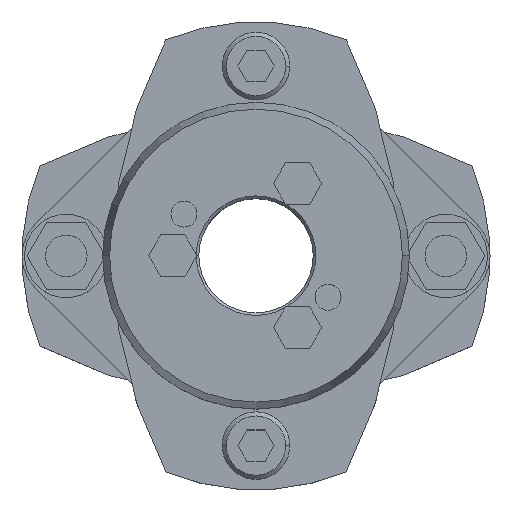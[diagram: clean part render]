
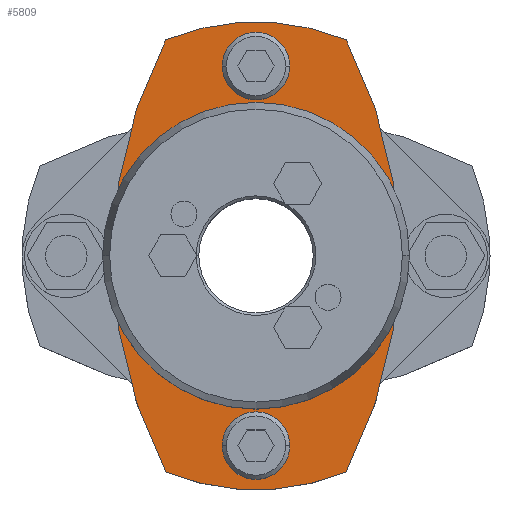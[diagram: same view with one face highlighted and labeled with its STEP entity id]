
A CAD part, top view. The second image highlights one B-rep face of the part: STEP entity #5809.
In plain terms, the highlighted planar face has unit normal (0, 0, 1).
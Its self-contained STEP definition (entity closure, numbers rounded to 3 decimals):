
#771=CARTESIAN_POINT('',(27.5,0.,14.25));
#772=VERTEX_POINT('',#771);
#781=CARTESIAN_POINT('',(17.35,-41.521,14.25));
#782=VERTEX_POINT('',#781);
#783=CARTESIAN_POINT('',(-62.5,0.,14.25));
#784=DIRECTION('',(0.0,0.0,-1.0));
#785=DIRECTION('',(-1.0,0.0,0.0));
#786=AXIS2_PLACEMENT_3D('',#783,#784,#785);
#787=CIRCLE('',#786,90.);
#788=EDGE_CURVE('',#772,#782,#787,.T.);
#815=CARTESIAN_POINT('',(-27.5,0.,14.25));
#816=VERTEX_POINT('',#815);
#832=CARTESIAN_POINT('',(-17.35,-41.521,14.25));
#833=VERTEX_POINT('',#832);
#840=CARTESIAN_POINT('',(62.5,0.,14.25));
#841=DIRECTION('',(0.0,0.0,-1.0));
#842=DIRECTION('',(-1.0,0.0,0.0));
#843=AXIS2_PLACEMENT_3D('',#840,#841,#842);
#844=CIRCLE('',#843,90.);
#845=EDGE_CURVE('',#833,#816,#844,.T.);
#1106=CARTESIAN_POINT('',(-20.5,0.,14.25));
#1107=VERTEX_POINT('',#1106);
#1157=CARTESIAN_POINT('',(20.5,0.,14.25));
#1158=VERTEX_POINT('',#1157);
#1165=CARTESIAN_POINT('',(0.,0.,14.25));
#1166=DIRECTION('',(0.0,0.0,-1.0));
#1167=DIRECTION('',(-1.0,0.0,0.0));
#1168=AXIS2_PLACEMENT_3D('',#1165,#1166,#1167);
#1169=CIRCLE('',#1168,20.5);
#1170=EDGE_CURVE('',#1107,#1158,#1169,.T.);
#1182=CARTESIAN_POINT('',(-6.5,-36.5,14.25));
#1183=VERTEX_POINT('',#1182);
#1199=CARTESIAN_POINT('',(6.5,-36.5,14.25));
#1200=VERTEX_POINT('',#1199);
#1207=CARTESIAN_POINT('',(0.,-36.5,14.25));
#1208=DIRECTION('',(0.0,0.0,-1.0));
#1209=DIRECTION('',(-1.0,0.0,0.0));
#1210=AXIS2_PLACEMENT_3D('',#1207,#1208,#1209);
#1211=CIRCLE('',#1210,6.5);
#1212=EDGE_CURVE('',#1183,#1200,#1211,.T.);
#1256=CARTESIAN_POINT('',(-6.5,36.5,14.25));
#1257=VERTEX_POINT('',#1256);
#1273=CARTESIAN_POINT('',(6.5,36.5,14.25));
#1274=VERTEX_POINT('',#1273);
#1281=CARTESIAN_POINT('',(0.,36.5,14.25));
#1282=DIRECTION('',(0.0,0.0,-1.0));
#1283=DIRECTION('',(-1.0,0.0,0.0));
#1284=AXIS2_PLACEMENT_3D('',#1281,#1282,#1283);
#1285=CIRCLE('',#1284,6.5);
#1286=EDGE_CURVE('',#1257,#1274,#1285,.T.);
#5231=CARTESIAN_POINT('',(0.,36.5,14.25));
#5232=DIRECTION('',(0.0,0.0,-1.0));
#5233=DIRECTION('',(-1.0,0.0,0.0));
#5234=AXIS2_PLACEMENT_3D('',#5231,#5232,#5233);
#5235=CIRCLE('',#5234,6.5);
#5236=EDGE_CURVE('',#1274,#1257,#5235,.T.);
#5291=CARTESIAN_POINT('',(0.,-36.5,14.25));
#5292=DIRECTION('',(0.0,0.0,-1.0));
#5293=DIRECTION('',(-1.0,0.0,0.0));
#5294=AXIS2_PLACEMENT_3D('',#5291,#5292,#5293);
#5295=CIRCLE('',#5294,6.5);
#5296=EDGE_CURVE('',#1200,#1183,#5295,.T.);
#5495=CARTESIAN_POINT('',(0.,0.,14.25));
#5496=DIRECTION('',(0.0,0.0,-1.0));
#5497=DIRECTION('',(-1.0,0.0,0.0));
#5498=AXIS2_PLACEMENT_3D('',#5495,#5496,#5497);
#5499=CIRCLE('',#5498,20.5);
#5500=EDGE_CURVE('',#1158,#1107,#5499,.T.);
#5703=CARTESIAN_POINT('',(0.,0.,14.25));
#5704=DIRECTION('',(0.0,0.0,-1.0));
#5705=DIRECTION('',(-1.0,0.0,0.0));
#5706=AXIS2_PLACEMENT_3D('',#5703,#5704,#5705);
#5707=CIRCLE('',#5706,45.);
#5708=EDGE_CURVE('',#782,#833,#5707,.T.);
#5722=CARTESIAN_POINT('',(-17.35,41.521,14.25));
#5723=VERTEX_POINT('',#5722);
#5724=CARTESIAN_POINT('',(62.5,0.,14.25));
#5725=DIRECTION('',(0.0,0.0,-1.0));
#5726=DIRECTION('',(-1.0,0.0,0.0));
#5727=AXIS2_PLACEMENT_3D('',#5724,#5725,#5726);
#5728=CIRCLE('',#5727,90.);
#5729=EDGE_CURVE('',#816,#5723,#5728,.T.);
#5746=CARTESIAN_POINT('',(17.35,41.521,14.25));
#5747=VERTEX_POINT('',#5746);
#5748=CARTESIAN_POINT('',(0.,0.,14.25));
#5749=DIRECTION('',(0.0,0.0,-1.0));
#5750=DIRECTION('',(-1.0,0.0,0.0));
#5751=AXIS2_PLACEMENT_3D('',#5748,#5749,#5750);
#5752=CIRCLE('',#5751,45.);
#5753=EDGE_CURVE('',#5723,#5747,#5752,.T.);
#5774=CARTESIAN_POINT('',(-62.5,0.,14.25));
#5775=DIRECTION('',(0.0,0.0,-1.0));
#5776=DIRECTION('',(-1.0,0.0,0.0));
#5777=AXIS2_PLACEMENT_3D('',#5774,#5775,#5776);
#5778=CIRCLE('',#5777,90.);
#5779=EDGE_CURVE('',#5747,#772,#5778,.T.);
#5784=CARTESIAN_POINT('',(0.,0.,14.25));
#5785=DIRECTION('',(0.0,0.0,1.0));
#5786=DIRECTION('',(-1.0,0.0,0.0));
#5787=AXIS2_PLACEMENT_3D('',#5784,#5785,#5786);
#5788=PLANE('',#5787);
#5789=ORIENTED_EDGE('',*,*,#5708,.F.);
#5790=ORIENTED_EDGE('',*,*,#788,.F.);
#5791=ORIENTED_EDGE('',*,*,#5779,.F.);
#5792=ORIENTED_EDGE('',*,*,#5753,.F.);
#5793=ORIENTED_EDGE('',*,*,#5729,.F.);
#5794=ORIENTED_EDGE('',*,*,#845,.F.);
#5795=EDGE_LOOP('',(#5789,#5790,#5791,#5792,#5793,#5794));
#5796=FACE_OUTER_BOUND('',#5795,.T.);
#5797=ORIENTED_EDGE('',*,*,#1286,.T.);
#5798=ORIENTED_EDGE('',*,*,#5236,.T.);
#5799=EDGE_LOOP('',(#5797,#5798));
#5800=FACE_BOUND('',#5799,.T.);
#5801=ORIENTED_EDGE('',*,*,#1212,.T.);
#5802=ORIENTED_EDGE('',*,*,#5296,.T.);
#5803=EDGE_LOOP('',(#5801,#5802));
#5804=FACE_BOUND('',#5803,.T.);
#5805=ORIENTED_EDGE('',*,*,#1170,.T.);
#5806=ORIENTED_EDGE('',*,*,#5500,.T.);
#5807=EDGE_LOOP('',(#5805,#5806));
#5808=FACE_BOUND('',#5807,.T.);
#5809=ADVANCED_FACE('',(#5796,#5800,#5804,#5808),#5788,.T.);
